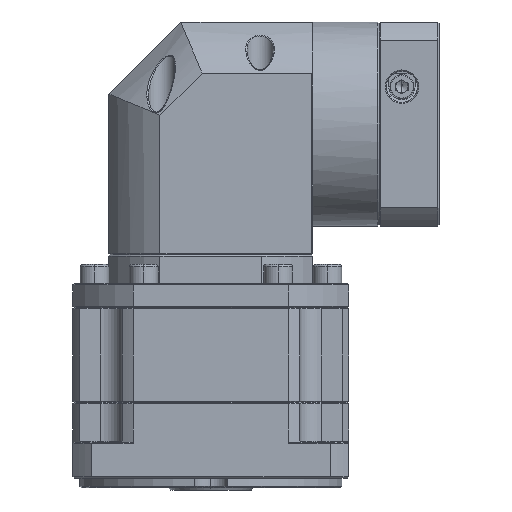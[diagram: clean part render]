
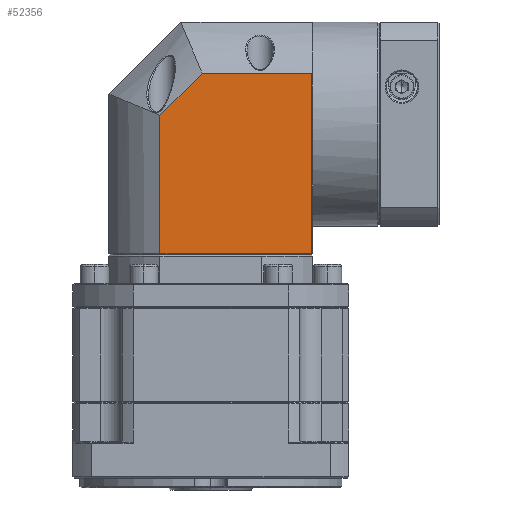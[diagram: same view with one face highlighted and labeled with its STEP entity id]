
A CAD part, front view. The second image highlights one B-rep face of the part: STEP entity #52356.
In plain terms, the highlighted planar face has unit normal (0, -1, 0).
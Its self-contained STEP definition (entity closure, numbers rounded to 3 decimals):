
#5081 = EDGE_CURVE ( 'NONE', #17844, #5335, #108862, .T. ) ;
#5335 = VERTEX_POINT ( 'NONE', #102050 ) ;
#6192 = DIRECTION ( 'NONE',  ( 1., 0., 0. ) ) ;
#10082 = CARTESIAN_POINT ( 'NONE',  ( -59.422, -44.565, 319.002 ) ) ;
#10164 = CARTESIAN_POINT ( 'NONE',  ( -59.422, -44.565, 280.185 ) ) ;
#11355 = VERTEX_POINT ( 'NONE', #34172 ) ;
#17844 = VERTEX_POINT ( 'NONE', #86215 ) ;
#32112 = LINE ( 'NONE', #10164, #33949 ) ;
#33949 = VECTOR ( 'NONE', #100604, 1000. ) ;
#34172 = CARTESIAN_POINT ( 'NONE',  ( -59.422, -44.565, 280.185 ) ) ;
#40139 = PLANE ( 'NONE',  #110353 ) ;
#41033 = LINE ( 'NONE', #48348, #97646 ) ;
#41698 = DIRECTION ( 'NONE',  ( 0., 0., 1. ) ) ;
#43708 = CARTESIAN_POINT ( 'NONE',  ( -41.892, -44.565, 297.715 ) ) ;
#46185 = CARTESIAN_POINT ( 'NONE',  ( 3.791, -44.565, 319.002 ) ) ;
#48348 = CARTESIAN_POINT ( 'NONE',  ( 4.291, -44.565, 297.715 ) ) ;
#52356 = ADVANCED_FACE ( 'NONE', ( #132608 ), #40139, .F. ) ;
#52366 = LINE ( 'NONE', #46185, #64353 ) ;
#58331 = LINE ( 'NONE', #10082, #97820 ) ;
#59388 = EDGE_CURVE ( 'NONE', #80668, #85317, #41033, .T. ) ;
#64353 = VECTOR ( 'NONE', #122886, 1000. ) ;
#73579 = DIRECTION ( 'NONE',  ( -1., 0., 0. ) ) ;
#77691 = ORIENTED_EDGE ( 'NONE', *, *, #82680, .F. ) ;
#80668 = VERTEX_POINT ( 'NONE', #43708 ) ;
#82680 = EDGE_CURVE ( 'NONE', #11355, #80668, #32112, .T. ) ;
#85005 = CARTESIAN_POINT ( 'NONE',  ( 4.291, -44.565, 319.002 ) ) ;
#85317 = VERTEX_POINT ( 'NONE', #123867 ) ;
#85489 = DIRECTION ( 'NONE',  ( 0., 1., 0. ) ) ;
#86215 = CARTESIAN_POINT ( 'NONE',  ( -59.422, -44.565, 222.502 ) ) ;
#88183 = VECTOR ( 'NONE', #97650, 1000. ) ;
#97646 = VECTOR ( 'NONE', #6192, 1000. ) ;
#97650 = DIRECTION ( 'NONE',  ( 1., 0., 0. ) ) ;
#97820 = VECTOR ( 'NONE', #41698, 1000. ) ;
#98980 = EDGE_CURVE ( 'NONE', #85317, #5335, #52366, .T. ) ;
#100604 = DIRECTION ( 'NONE',  ( 0.707, 0., 0.707 ) ) ;
#102050 = CARTESIAN_POINT ( 'NONE',  ( 3.791, -44.565, 222.502 ) ) ;
#103037 = EDGE_CURVE ( 'NONE', #17844, #11355, #58331, .T. ) ;
#108528 = EDGE_LOOP ( 'NONE', ( #122483, #141452, #137315, #77691, #112773 ) ) ;
#108862 = LINE ( 'NONE', #119229, #88183 ) ;
#110353 = AXIS2_PLACEMENT_3D ( 'NONE', #85005, #85489, #73579 ) ;
#112773 = ORIENTED_EDGE ( 'NONE', *, *, #103037, .F. ) ;
#119229 = CARTESIAN_POINT ( 'NONE',  ( 4.291, -44.565, 222.502 ) ) ;
#122483 = ORIENTED_EDGE ( 'NONE', *, *, #5081, .T. ) ;
#122886 = DIRECTION ( 'NONE',  ( 0., 0., -1. ) ) ;
#123867 = CARTESIAN_POINT ( 'NONE',  ( 3.791, -44.565, 297.715 ) ) ;
#132608 = FACE_OUTER_BOUND ( 'NONE', #108528, .T. ) ;
#137315 = ORIENTED_EDGE ( 'NONE', *, *, #59388, .F. ) ;
#141452 = ORIENTED_EDGE ( 'NONE', *, *, #98980, .F. ) ;
